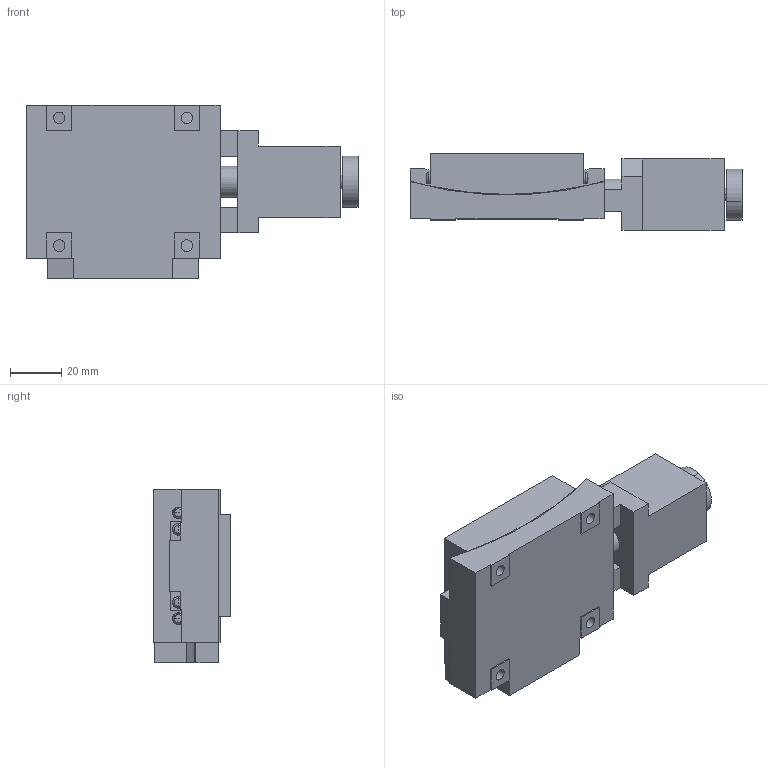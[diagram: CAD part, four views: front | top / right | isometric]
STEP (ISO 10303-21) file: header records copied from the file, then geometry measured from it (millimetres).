
FILE_DESCRIPTION (( 'STEP AP203' ), '1' );
FILE_NAME ('ATS-C610B-HM.STEP', '2013-08-02T04:50:33', ( '' ), ( '' ), 'SwSTEP 2.0', 'SolidWorks 2011', '' );
FILE_SCHEMA (( 'CONFIG_CONTROL_DESIGN' ));
Length unit declared in the file: millimetre
Products named in the file (3): ATS-C610B-HM; ATS-C610B-HM-2; ATS-C610B-HM-1
Assembly tree (2 placements, depth 2):
  ATS-C610B-HM
    ATS-C610B-HM-1
    ATS-C610B-HM-2
Bounding box: 130 x 30 x 68 mm (x, y, z)
Volume: 151629.8 mm3; surface area: 36434.2 mm2
Topology: 2 solids, 2 shells, 212 faces, 534 edges, 332 vertices
Faces by surface type: plane 88, cylinder 70, torus 32, cone 22
Entity records: 7069 total; most frequent: CARTESIAN_POINT 1611, DIRECTION 1128, ORIENTED_EDGE 1028, EDGE_CURVE 514, AXIS2_PLACEMENT_3D 423, VERTEX_POINT 332, VECTOR 282, LINE 282
